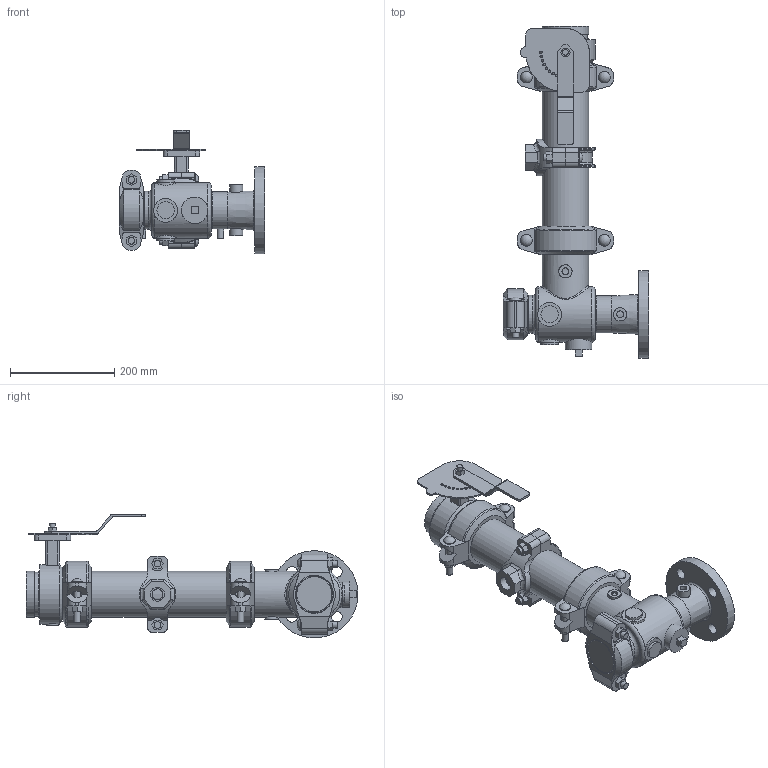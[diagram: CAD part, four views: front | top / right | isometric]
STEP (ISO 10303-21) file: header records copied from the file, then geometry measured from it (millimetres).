
FILE_DESCRIPTION(/* description */ ('VIC SVI PUMP DROP HORZ S/391 (OGSxFLG)','CAx-IF Rec.Pracs.---Representation and Presentation of Product Manufacturing Information (PMI)---4.0---2014-10-13'),/* implementation_level */ '2;1');
FILE_NAME(/* name */ 'C:\Users\kkamble\AppData\Roaming\Autodesk\ApplicationPlugins\Back Up\Victaulic_PN10_Series 391 (OGSxFLG)\Victaulic_PN10_Series 391 (OGSxFLG)_03.0x02.0 (80x50).stp',/* time_stamp */ '2020-11-26T23:43:09+05:00',/* author */ ('kkamble'),/* organization */ ('Victaulic'),/* preprocessor_version */ 'ST-DEVELOPER v17.2',/* originating_system */ 'Autodesk Inventor 2019',/* authorisation */ '');
FILE_SCHEMA (('AP242_MANAGED_MODEL_BASED_3D_ENGINEERING_MIM_LF { 1 0 10303 442 1 1 4 }'));
Length unit declared in the file: inch
Products named in the file (11): 391-03.0x02.0; 731D-03.0x02.0; 731D-03.0x02.0_1; 731D-03.0; 07-02.5; PIPE-03.0; 177N-03.0; 761-03.0; 920NT-03.0x0.75; 920N LOWER HSG-03.0; 920NT-03.0x0.75_1
Assembly tree (11 placements, depth 3):
  391-03.0x02.0
    731D-03.0x02.0
      731D-03.0x02.0_1
      731D-03.0
      07-02.5
    177N-03.0  x2
    PIPE-03.0
    761-03.0
    920NT-03.0x0.75
      920N LOWER HSG-03.0
      920NT-03.0x0.75_1
Bounding box: 279.4 x 637.79 x 238 mm (x, y, z)
Volume: 3712531.7 mm3; surface area: 783693.8 mm2
Topology: 9 solids, 12 shells, 579 faces, 1531 edges, 1032 vertices
Faces by surface type: plane 318, cylinder 208, torus 23, cone 17, sphere 8, bspline 5
Full cylindrical faces by diameter (mm): 4.826 x10, 8.636 x4, 10.922 x2, 12.7 x12, 13.157 x4, 20.93 x1, 21.006 x4, 21.982 x2, 22.225 x6, 22.86 x1, 25.4 x4, 26.924 x1, 33.02 x3, 45.72 x3, 49.022 x1, 50.8 x3, 55.118 x1, 57.912 x1, 66.675 x1, 69.088 x2, 71.374 x1, 72.898 x1, 73.025 x5, 76.2 x2, 77.927 x2, 84.938 x5, 88.9 x13, 106.68 x1, 114.3 x1, 167.64 x1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
Entity records: 17626 total; most frequent: CARTESIAN_POINT 4195, DIRECTION 2711, ORIENTED_EDGE 2566, EDGE_CURVE 1283, AXIS2_PLACEMENT_3D 1024, VERTEX_POINT 869, LINE 663, VECTOR 663
